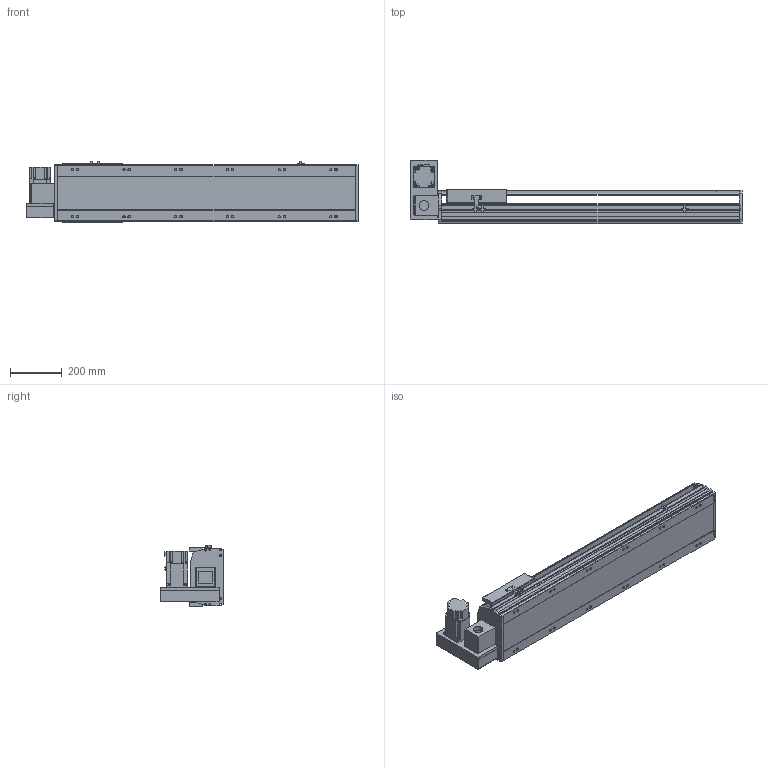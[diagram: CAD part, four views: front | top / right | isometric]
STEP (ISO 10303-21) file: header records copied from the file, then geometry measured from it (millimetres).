
FILE_DESCRIPTION(/* description */ ('STEP AP214'),/* implementation_level */ '2;1');
FILE_NAME(/* name */ 'PBS220-P40-S800-LU-T75-C1-N(0)',/* time_stamp */ '2022-06-13T02:29:24+02:00',/* author */ ('License CC BY-ND 4.0'),/* organization */ ('CADENAS'),/* preprocessor_version */ 'ST-DEVELOPER v18.102',/* originating_system */ 'PARTsolutions',/* authorisation */ ' ');
FILE_SCHEMA (('AUTOMOTIVE_DESIGN {1 0 10303 214 3 1 1}'));
Length unit declared in the file: millimetre
Products named in the file (7): PBS220-P40-S800-LU-T75-C1-N(0); PBS220_sensor; PBS220_plant; PBS220_sliser; T75-p1; PBS220T-LU_motors; PBS220-S800()_body
Assembly tree (8 placements, depth 2):
  PBS220-P40-S800-LU-T75-C1-N(0)
    PBS220_sensor  x3
    PBS220_plant
    PBS220_sliser
    T75-p1
    PBS220T-LU_motors
    PBS220-S800()_body
Bounding box: 1284 x 247 x 238.5 mm (x, y, z)
Volume: 18768953.3 mm3; surface area: 1869488.4 mm2
Topology: 8 solids, 8 shells, 890 faces, 2340 edges, 1522 vertices
Faces by surface type: plane 590, cylinder 264, cone 36
Full cylindrical faces by diameter (mm): 2.013 x4, 4.5 x14, 4.917 x4, 6 x7, 6.647 x8, 8 x10, 8.376 x12, 8.5 x12, 10 x6, 14 x12, 38 x2, 40 x1, 70 x1
Entity records: 25005 total; most frequent: CARTESIAN_POINT 4360, DIRECTION 4347, ORIENTED_EDGE 4034, EDGE_CURVE 2017, AXIS2_PLACEMENT_3D 1503, VERTEX_POINT 1384, LINE 1341, VECTOR 1341
